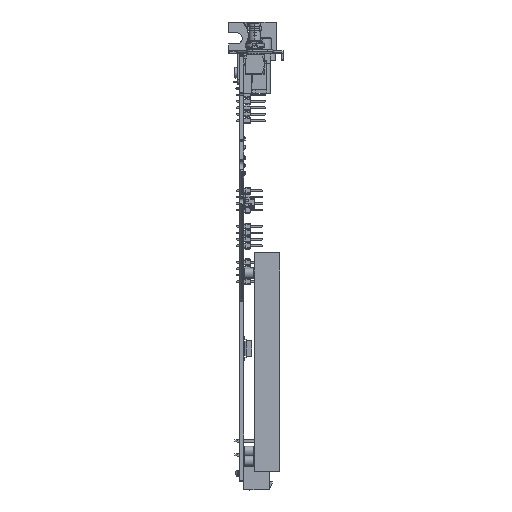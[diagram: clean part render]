
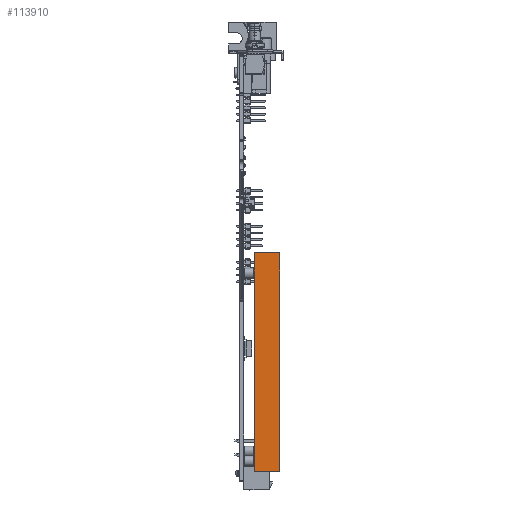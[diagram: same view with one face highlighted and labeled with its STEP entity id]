
A CAD part, top view. The second image highlights one B-rep face of the part: STEP entity #113910.
In plain terms, the highlighted planar face has unit normal (0, 0, 1) as drawn and (1, 0, 0) by its records, which use the part's own axes.
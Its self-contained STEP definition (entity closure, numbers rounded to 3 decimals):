
#110363=DIRECTION('',(0.,-1.,0.));
#110364=VECTOR('',#110363,10.1);
#110365=CARTESIAN_POINT('',(27.5,10.1,51.));
#110366=LINE('',#110365,#110364);
#111051=DIRECTION('',(0.,-1.,0.));
#111052=VECTOR('',#111051,10.1);
#111053=CARTESIAN_POINT('',(27.5,10.1,-35.));
#111054=LINE('',#111053,#111052);
#111055=DIRECTION('',(0.,0.,1.));
#111056=VECTOR('',#111055,86.);
#111057=CARTESIAN_POINT('',(27.5,0.,-35.));
#111058=LINE('',#111057,#111056);
#111059=DIRECTION('',(0.,0.,1.));
#111060=VECTOR('',#111059,86.);
#111061=CARTESIAN_POINT('',(27.5,10.1,-35.));
#111062=LINE('',#111061,#111060);
#111287=CARTESIAN_POINT('',(27.5,0.,-35.));
#111289=VERTEX_POINT('',#111287);
#111293=CARTESIAN_POINT('',(27.5,0.,51.));
#111294=VERTEX_POINT('',#111293);
#111311=CARTESIAN_POINT('',(27.5,10.1,-35.));
#111312=VERTEX_POINT('',#111311);
#111317=CARTESIAN_POINT('',(27.5,10.1,51.));
#111319=VERTEX_POINT('',#111317);
#113898=CARTESIAN_POINT('',(27.5,0.,51.));
#113899=DIRECTION('',(1.,0.,0.));
#113900=DIRECTION('',(0.,0.,-1.));
#113901=AXIS2_PLACEMENT_3D('',#113898,#113899,#113900);
#113902=PLANE('',#113901);
#113903=ORIENTED_EDGE('',*,*,#113121,.T.);
#113904=ORIENTED_EDGE('',*,*,#111844,.T.);
#113905=ORIENTED_EDGE('',*,*,#112932,.F.);
#113907=ORIENTED_EDGE('',*,*,#113906,.F.);
#113908=EDGE_LOOP('',(#113903,#113904,#113905,#113907));
#113909=FACE_OUTER_BOUND('',#113908,.F.);
#113910=ADVANCED_FACE('',(#113909),#113902,.T.);
#111844=EDGE_CURVE('',#111289,#111294,#111058,.T.);
#112932=EDGE_CURVE('',#111319,#111294,#110366,.T.);
#113121=EDGE_CURVE('',#111312,#111289,#111054,.T.);
#113906=EDGE_CURVE('',#111312,#111319,#111062,.T.);
